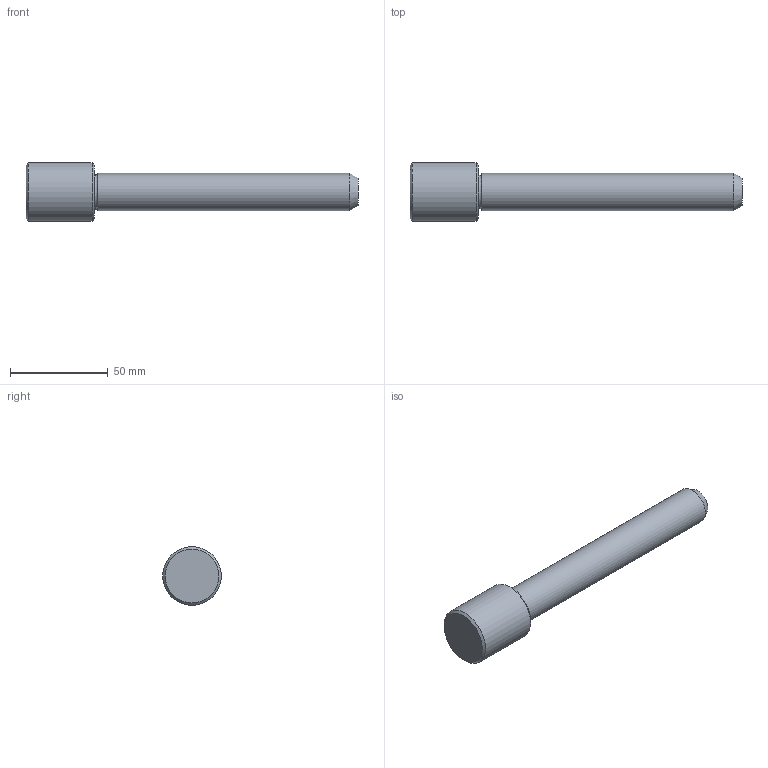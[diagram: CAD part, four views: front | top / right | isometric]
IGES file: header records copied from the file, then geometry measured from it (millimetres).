
Global section: file name: C319170.ipt; native system: Autodesk Inventor 2021; preprocessor: unknown; author: SM; date: 20211221.120904; units: millimetre
Bounding box: 170 x 30 x 30 mm (x, y, z)
Volume: 62549.7 mm3; surface area: 12563.3 mm2
Topology: 1 solids, 1 shells, 9 faces, 16 edges, 10 vertices
Faces by surface type: cone 3, plane 3, cylinder 2, revolution 1
Full cylindrical faces by diameter (mm): 19 x1, 30 x1
